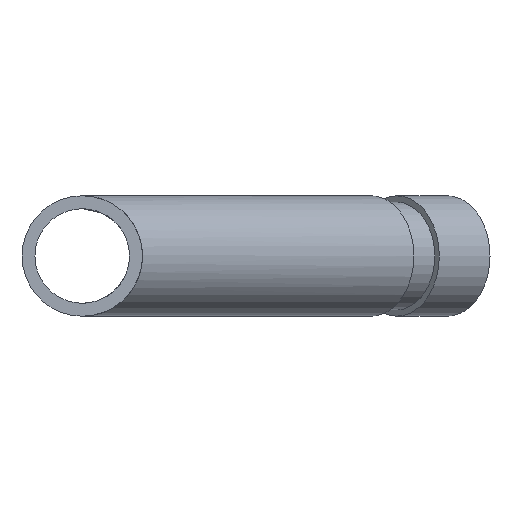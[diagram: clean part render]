
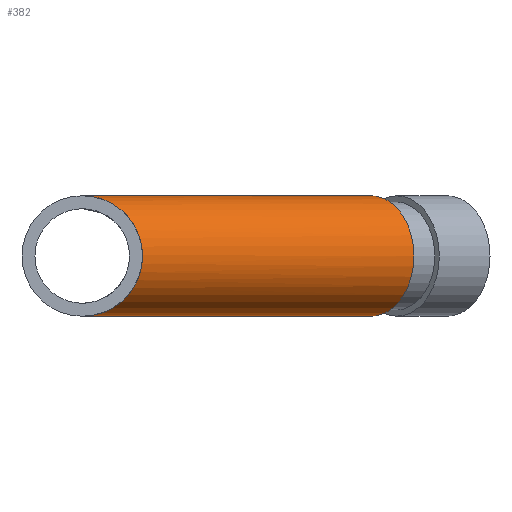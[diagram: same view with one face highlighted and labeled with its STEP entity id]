
A CAD part, front view. The second image highlights one B-rep face of the part: STEP entity #382.
In plain terms, the highlighted cylindrical face has radius 13.335 mm (diameter 26.67 mm), a full revolution.
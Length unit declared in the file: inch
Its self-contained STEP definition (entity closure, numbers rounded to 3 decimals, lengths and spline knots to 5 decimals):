
#45=ELLIPSE('',#439,1.37189,0.525);
#46=ELLIPSE('',#440,1.37189,0.525);
#47=ELLIPSE('',#441,0.56826,0.525);
#61=LINE('',#709,#72);
#72=VECTOR('',#580,0.525);
#82=CYLINDRICAL_SURFACE('',#454,0.525);
#108=FACE_OUTER_BOUND('',#134,.T.);
#134=EDGE_LOOP('',(#319,#320,#321,#322,#323,#324));
#142=CIRCLE('',#408,0.525);
#169=VERTEX_POINT('',#620);
#189=VERTEX_POINT('',#677);
#190=VERTEX_POINT('',#678);
#191=VERTEX_POINT('',#680);
#203=EDGE_CURVE('',#169,#169,#142,.T.);
#229=EDGE_CURVE('',#189,#190,#45,.T.);
#230=EDGE_CURVE('',#190,#191,#46,.T.);
#231=EDGE_CURVE('',#191,#189,#47,.T.);
#245=EDGE_CURVE('',#190,#169,#61,.T.);
#319=ORIENTED_EDGE('',*,*,#231,.F.);
#320=ORIENTED_EDGE('',*,*,#230,.F.);
#321=ORIENTED_EDGE('',*,*,#245,.T.);
#322=ORIENTED_EDGE('',*,*,#203,.T.);
#323=ORIENTED_EDGE('',*,*,#245,.F.);
#324=ORIENTED_EDGE('',*,*,#229,.F.);
#382=ADVANCED_FACE('',(#108),#82,.T.);
#408=AXIS2_PLACEMENT_3D('',#621,#477,#478);
#439=AXIS2_PLACEMENT_3D('',#679,#545,#546);
#440=AXIS2_PLACEMENT_3D('',#681,#547,#548);
#441=AXIS2_PLACEMENT_3D('',#682,#549,#550);
#454=AXIS2_PLACEMENT_3D('',#708,#578,#579);
#477=DIRECTION('center_axis',(-0.707,-0.707,0.));
#478=DIRECTION('ref_axis',(0.707,-0.707,0.));
#545=DIRECTION('center_axis',(-0.924,0.383,0.));
#546=DIRECTION('ref_axis',(-0.383,-0.924,0.));
#547=DIRECTION('center_axis',(-0.924,0.383,0.));
#548=DIRECTION('ref_axis',(-0.383,-0.924,0.));
#549=DIRECTION('center_axis',(-0.383,-0.924,0.));
#550=DIRECTION('ref_axis',(0.924,-0.383,0.));
#578=DIRECTION('center_axis',(-0.707,-0.707,0.));
#579=DIRECTION('ref_axis',(0.707,-0.707,0.));
#580=DIRECTION('',(0.707,0.707,0.));
#620=CARTESIAN_POINT('',(2.14748,2.88995,0.));
#621=CARTESIAN_POINT('Origin',(2.51871,2.51871,0.));
#677=CARTESIAN_POINT('',(0.,0.,0.525));
#678=CARTESIAN_POINT('',(0.525,1.26746,0.));
#679=CARTESIAN_POINT('Origin',(0.,0.,0.));
#680=CARTESIAN_POINT('',(0.,0.,-0.525));
#681=CARTESIAN_POINT('Origin',(0.,0.,0.));
#682=CARTESIAN_POINT('Origin',(0.,0.,
0.));
#708=CARTESIAN_POINT('Origin',(3.18198,3.18198,0.));
#709=CARTESIAN_POINT('',(2.81075,3.55321,0.));
